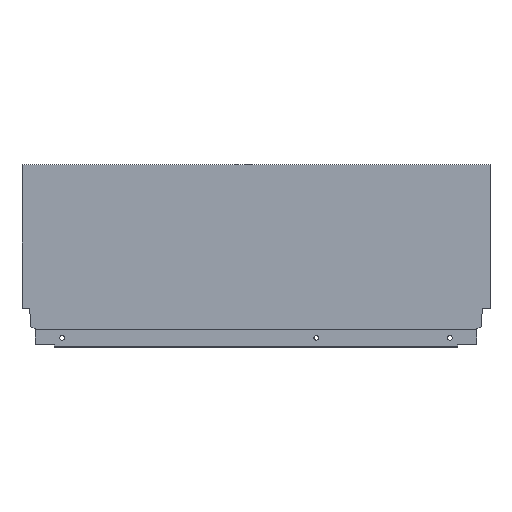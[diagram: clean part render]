
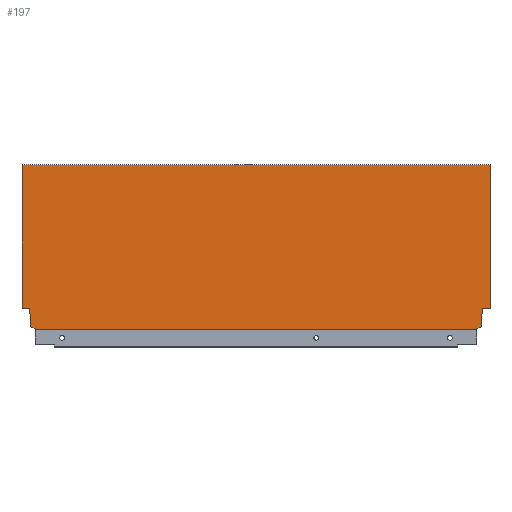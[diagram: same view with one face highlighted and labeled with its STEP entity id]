
A CAD part, top view. The second image highlights one B-rep face of the part: STEP entity #197.
In plain terms, the highlighted planar face has unit normal (0, 0, 1).
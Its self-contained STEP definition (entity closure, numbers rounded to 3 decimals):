
#60 = EDGE_CURVE ( 'NONE', #852, #792, #1024, .T. ) ;
#63 = EDGE_CURVE ( 'NONE', #852, #850, #1019, .T. ) ;
#64 = EDGE_CURVE ( 'NONE', #813, #814, #1021, .T. ) ;
#65 = EDGE_CURVE ( 'NONE', #835, #813, #1015, .T. ) ;
#66 = EDGE_CURVE ( 'NONE', #807, #835, #1013, .T. ) ;
#67 = EDGE_CURVE ( 'NONE', #792, #807, #1011, .T. ) ;
#68 = EDGE_CURVE ( 'NONE', #828, #850, #1009, .T. ) ;
#69 = EDGE_CURVE ( 'NONE', #815, #814, #1007, .T. ) ;
#70 = EDGE_CURVE ( 'NONE', #816, #828, #1005, .T. ) ;
#71 = EDGE_CURVE ( 'NONE', #855, #816, #1003, .T. ) ;
#72 = EDGE_CURVE ( 'NONE', #790, #857, #1001, .T. ) ;
#73 = EDGE_CURVE ( 'NONE', #794, #855, #999, .T. ) ;
#75 = EDGE_CURVE ( 'NONE', #857, #794, #1028, .T. ) ;
#77 = EDGE_CURVE ( 'NONE', #815, #790, #1022, .T. ) ;
#197 = ADVANCED_FACE ( 'NONE', ( #894 ), #375, .T. ) ;
#260 = CARTESIAN_POINT ( 'NONE',  ( 0., 164.7, 7.5 ) ) ;
#265 = CARTESIAN_POINT ( 'NONE',  ( -7.06, 21.2, 7.5 ) ) ;
#280 = CARTESIAN_POINT ( 'NONE',  ( -458.1, 2.64, 7.5 ) ) ;
#286 = CARTESIAN_POINT ( 'NONE',  ( -467., 0., 7.5 ) ) ;
#289 = CARTESIAN_POINT ( 'NONE',  ( -459.94, 21.2, 7.5 ) ) ;
#290 = CARTESIAN_POINT ( 'NONE',  ( -467., 21.2, 7.5 ) ) ;
#291 = CARTESIAN_POINT ( 'NONE',  ( -467., 164.7, 7.5 ) ) ;
#292 = CARTESIAN_POINT ( 'NONE',  ( -8.9, 2.64, 7.5 ) ) ;
#304 = CARTESIAN_POINT ( 'NONE',  ( -13.004, 1.146, 7.5 ) ) ;
#356 = CARTESIAN_POINT ( 'NONE',  ( -453.996, 1.146, 7.5 ) ) ;
#375 = PLANE ( 'NONE',  #1525 ) ;
#379 = DIRECTION ( 'NONE',  ( 1., 0., 0. ) ) ;
#383 = CARTESIAN_POINT ( 'NONE',  ( -13.004, 0., 7.5 ) ) ;
#384 = CARTESIAN_POINT ( 'NONE',  ( -458.1, 10.765, 7.5 ) ) ;
#443 = CARTESIAN_POINT ( 'NONE',  ( -8.9, 10.765, 7.5 ) ) ;
#479 = CARTESIAN_POINT ( 'NONE',  ( -453.996, 0., 7.5 ) ) ;
#481 = CARTESIAN_POINT ( 'NONE',  ( 0., 21.2, 7.5 ) ) ;
#532 = DIRECTION ( 'NONE',  ( 0., 0., 1. ) ) ;
#535 = CARTESIAN_POINT ( 'NONE',  ( -459.94, 21.2, 7.5 ) ) ;
#536 = DIRECTION ( 'NONE',  ( -1., 0., 0. ) ) ;
#537 = CARTESIAN_POINT ( 'NONE',  ( 0., 21.2, 7.5 ) ) ;
#538 = DIRECTION ( 'NONE',  ( 1., 0., 0. ) ) ;
#539 = CARTESIAN_POINT ( 'NONE',  ( -458.1, 2.64, 7.5 ) ) ;
#540 = CARTESIAN_POINT ( 'NONE',  ( -458.1, 10.765, 7.5 ) ) ;
#541 = CARTESIAN_POINT ( 'NONE',  ( -467., 0., 7.5 ) ) ;
#546 = DIRECTION ( 'NONE',  ( 0., 1., 0. ) ) ;
#547 = CARTESIAN_POINT ( 'NONE',  ( -453.996, 1.146, 7.5 ) ) ;
#552 = CARTESIAN_POINT ( 'NONE',  ( -472., 21.2, 7.5 ) ) ;
#582 = DIRECTION ( 'NONE',  ( 0., 1., 0. ) ) ;
#600 = DIRECTION ( 'NONE',  ( -1., 0., 0. ) ) ;
#605 = CARTESIAN_POINT ( 'NONE',  ( -467., 164.7, 7.5 ) ) ;
#606 = CARTESIAN_POINT ( 'NONE',  ( 0., 0., 7.5 ) ) ;
#607 = DIRECTION ( 'NONE',  ( 0., -1., 0. ) ) ;
#608 = CARTESIAN_POINT ( 'NONE',  ( -7.06, 21.2, 7.5 ) ) ;
#609 = DIRECTION ( 'NONE',  ( -0.174, -0.985, 0. ) ) ;
#610 = DIRECTION ( 'NONE',  ( -0.94, -0.342, 0. ) ) ;
#611 = CARTESIAN_POINT ( 'NONE',  ( -8.9, 10.765, 7.5 ) ) ;
#612 = DIRECTION ( 'NONE',  ( 0., -1., 0. ) ) ;
#613 = CARTESIAN_POINT ( 'NONE',  ( -467., 0., 7.5 ) ) ;
#614 = DIRECTION ( 'NONE',  ( 0., -1., 0. ) ) ;
#615 = CARTESIAN_POINT ( 'NONE',  ( -8.9, 2.64, 7.5 ) ) ;
#616 = DIRECTION ( 'NONE',  ( 0., -1., 0. ) ) ;
#617 = CARTESIAN_POINT ( 'NONE',  ( -13.004, 1.146, 7.5 ) ) ;
#618 = DIRECTION ( 'NONE',  ( -0.94, 0.342, 0. ) ) ;
#619 = DIRECTION ( 'NONE',  ( 1., 0., 0. ) ) ;
#756 = DIRECTION ( 'NONE',  ( -0.174, 0.985, 0. ) ) ;
#790 = VERTEX_POINT ( 'NONE', #260 ) ;
#792 = VERTEX_POINT ( 'NONE', #356 ) ;
#794 = VERTEX_POINT ( 'NONE', #265 ) ;
#807 = VERTEX_POINT ( 'NONE', #280 ) ;
#813 = VERTEX_POINT ( 'NONE', #289 ) ;
#814 = VERTEX_POINT ( 'NONE', #290 ) ;
#815 = VERTEX_POINT ( 'NONE', #291 ) ;
#816 = VERTEX_POINT ( 'NONE', #292 ) ;
#828 = VERTEX_POINT ( 'NONE', #304 ) ;
#835 = VERTEX_POINT ( 'NONE', #384 ) ;
#850 = VERTEX_POINT ( 'NONE', #383 ) ;
#852 = VERTEX_POINT ( 'NONE', #479 ) ;
#855 = VERTEX_POINT ( 'NONE', #443 ) ;
#857 = VERTEX_POINT ( 'NONE', #481 ) ;
#894 = FACE_OUTER_BOUND ( 'NONE', #1165, .T. ) ;
#991 = VECTOR ( 'NONE', #619, 1000. ) ;
#995 = VECTOR ( 'NONE', #600, 1000. ) ;
#998 = VECTOR ( 'NONE', #609, 1000. ) ;
#999 = LINE ( 'NONE', #608, #998 ) ;
#1000 = VECTOR ( 'NONE', #607, 1000. ) ;
#1001 = LINE ( 'NONE', #606, #1000 ) ;
#1002 = VECTOR ( 'NONE', #612, 1000. ) ;
#1003 = LINE ( 'NONE', #611, #1002 ) ;
#1004 = VECTOR ( 'NONE', #610, 1000. ) ;
#1005 = LINE ( 'NONE', #615, #1004 ) ;
#1006 = VECTOR ( 'NONE', #614, 1000. ) ;
#1007 = LINE ( 'NONE', #613, #1006 ) ;
#1008 = VECTOR ( 'NONE', #616, 1000. ) ;
#1009 = LINE ( 'NONE', #617, #1008 ) ;
#1010 = VECTOR ( 'NONE', #618, 1000. ) ;
#1011 = LINE ( 'NONE', #539, #1010 ) ;
#1012 = VECTOR ( 'NONE', #582, 1000. ) ;
#1013 = LINE ( 'NONE', #540, #1012 ) ;
#1014 = VECTOR ( 'NONE', #756, 1000. ) ;
#1015 = LINE ( 'NONE', #535, #1014 ) ;
#1017 = VECTOR ( 'NONE', #536, 1000. ) ;
#1018 = VECTOR ( 'NONE', #538, 1000. ) ;
#1019 = LINE ( 'NONE', #541, #1018 ) ;
#1021 = LINE ( 'NONE', #552, #1017 ) ;
#1022 = LINE ( 'NONE', #605, #991 ) ;
#1023 = VECTOR ( 'NONE', #546, 1000. ) ;
#1024 = LINE ( 'NONE', #547, #1023 ) ;
#1028 = LINE ( 'NONE', #537, #995 ) ;
#1165 = EDGE_LOOP ( 'NONE', ( #1235, #1236, #1237, #1238, #1239, #1240, #1241, #1242, #1243, #1244, #1245, #1246, #1247, #1248 ) ) ;
#1235 = ORIENTED_EDGE ( 'NONE', *, *, #69, .T. ) ;
#1236 = ORIENTED_EDGE ( 'NONE', *, *, #64, .F. ) ;
#1237 = ORIENTED_EDGE ( 'NONE', *, *, #65, .F. ) ;
#1238 = ORIENTED_EDGE ( 'NONE', *, *, #66, .F. ) ;
#1239 = ORIENTED_EDGE ( 'NONE', *, *, #67, .F. ) ;
#1240 = ORIENTED_EDGE ( 'NONE', *, *, #60, .F. ) ;
#1241 = ORIENTED_EDGE ( 'NONE', *, *, #63, .T. ) ;
#1242 = ORIENTED_EDGE ( 'NONE', *, *, #68, .F. ) ;
#1243 = ORIENTED_EDGE ( 'NONE', *, *, #70, .F. ) ;
#1244 = ORIENTED_EDGE ( 'NONE', *, *, #71, .F. ) ;
#1245 = ORIENTED_EDGE ( 'NONE', *, *, #73, .F. ) ;
#1246 = ORIENTED_EDGE ( 'NONE', *, *, #75, .F. ) ;
#1247 = ORIENTED_EDGE ( 'NONE', *, *, #72, .F. ) ;
#1248 = ORIENTED_EDGE ( 'NONE', *, *, #77, .F. ) ;
#1525 = AXIS2_PLACEMENT_3D ( 'NONE', #286, #532, #379 ) ;
